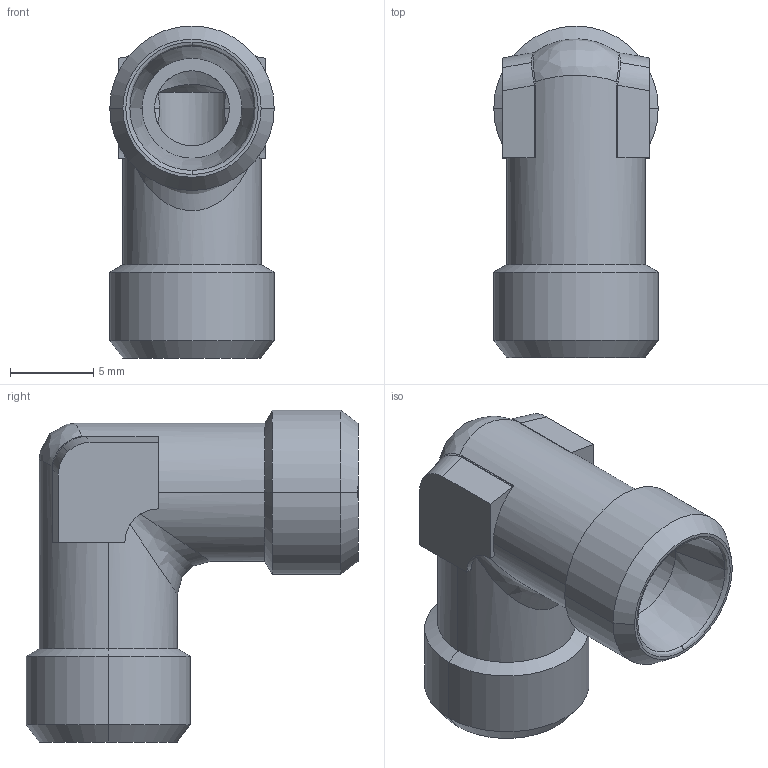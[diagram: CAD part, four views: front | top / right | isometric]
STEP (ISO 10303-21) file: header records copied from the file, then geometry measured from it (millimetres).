
FILE_DESCRIPTION((''),'2;1');
FILE_NAME('103802.stp','2007-10-31T11:54:34',(''),(''),'AutoCAD STEP 2000i','AutoCAD 2000i',', , ');
FILE_SCHEMA(('CONFIG_CONTROL_DESIGN'));
Length unit declared in the file: millimetre
Products named in the file (2): 103802.0; 1090#0
Assembly tree (1 placements, depth 2):
  103802.0
    1090#0
Bounding box: 9.88 x 19.94 x 19.94 mm (x, y, z)
Volume: 1213.4 mm3; surface area: 1436.5 mm2
Topology: 1 solids, 1 shells, 88 faces, 206 edges, 122 vertices
Faces by surface type: cylinder 40, cone 22, plane 14, bspline 12
Entity records: 3469 total; most frequent: CARTESIAN_POINT 1371, DIRECTION 434, ORIENTED_EDGE 412, EDGE_CURVE 206, AXIS2_PLACEMENT_3D 181, VERTEX_POINT 122, EDGE_LOOP 92, CIRCLE 88
